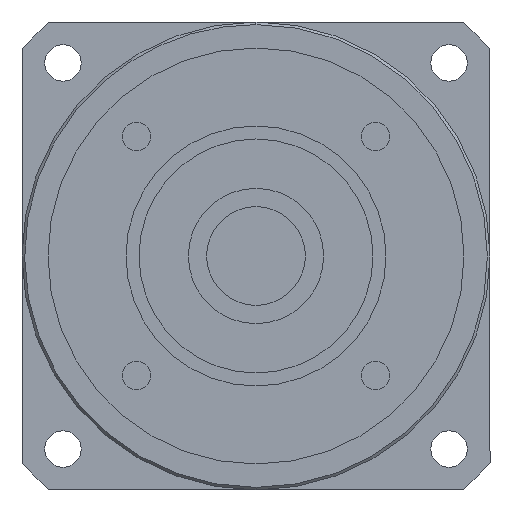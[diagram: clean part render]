
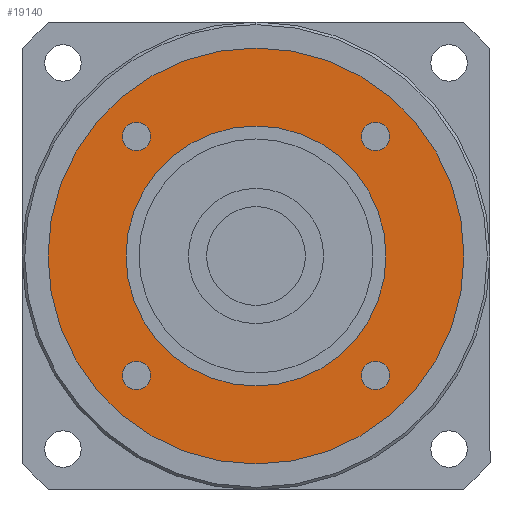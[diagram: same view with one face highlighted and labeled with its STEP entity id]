
A CAD part, left-side view. The second image highlights one B-rep face of the part: STEP entity #19140.
In plain terms, the highlighted planar face has unit normal (-1, 0, 0) as drawn and (0, 0, -1) by its records, which use the part's own axes.
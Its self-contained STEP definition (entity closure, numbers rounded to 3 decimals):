
#17810=CARTESIAN_POINT('',(40.,0.,-117.));
#17820=VERTEX_POINT('',#17810);
#17850=CARTESIAN_POINT('',(0.,0.,
-117.));
#17860=DIRECTION('',(0.,0.,1.));
#17870=DIRECTION('',(0.,-1.,0.));
#17880=AXIS2_PLACEMENT_3D('',#17850,#17860,#17870);
#17890=CIRCLE('',#17880,40.);
#17900=CARTESIAN_POINT('',(0.,-40.,-117.));
#17910=VERTEX_POINT('',#17900);
#17920=EDGE_CURVE('',#17910,#17820,#17890,.T.);
#17940=CARTESIAN_POINT('',(-40.,0.,-117.));
#17950=VERTEX_POINT('',#17940);
#17960=EDGE_CURVE('',#17950,#17910,#17890,.T.);
#18080=CARTESIAN_POINT('',(0.,0.,
-117.));
#18090=DIRECTION('',(0.,0.,1.));
#18100=DIRECTION('',(-1.,0.,0.));
#18110=AXIS2_PLACEMENT_3D('',#18080,#18090,#18100);
#18120=PLANE('',#18110);
#18130=CARTESIAN_POINT('',(22.981,-22.981,-117.));
#18140=DIRECTION('',(0.,0.,-1.));
#18150=DIRECTION('',(1.,0.,0.));
#18160=AXIS2_PLACEMENT_3D('',#18130,#18140,#18150);
#18170=CIRCLE('',#18160,2.75);
#18180=CARTESIAN_POINT('',(25.731,-22.981,-117.));
#18190=VERTEX_POINT('',#18180);
#18200=CARTESIAN_POINT('',(22.981,-25.731,-117.));
#18210=VERTEX_POINT('',#18200);
#18220=EDGE_CURVE('',#18190,#18210,#18170,.T.);
#18230=ORIENTED_EDGE('',*,*,#18220,.F.);
#18240=CARTESIAN_POINT('',(22.981,-20.231,-117.));
#18250=VERTEX_POINT('',#18240);
#18260=EDGE_CURVE('',#18210,#18250,#18170,.T.);
#18270=ORIENTED_EDGE('',*,*,#18260,.F.);
#18280=EDGE_CURVE('',#18250,#18190,#18170,.T.);
#18290=ORIENTED_EDGE('',*,*,#18280,.F.);
#18300=EDGE_LOOP('',(#18290,#18270,#18230));
#18310=FACE_BOUND('',#18300,.T.);
#18320=CARTESIAN_POINT('',(22.981,22.981,-117.));
#18330=DIRECTION('',(0.,0.,-1.));
#18340=DIRECTION('',(0.,1.,0.));
#18350=AXIS2_PLACEMENT_3D('',#18320,#18330,#18340);
#18360=CIRCLE('',#18350,2.75);
#18370=CARTESIAN_POINT('',(22.981,25.731,-117.));
#18380=VERTEX_POINT('',#18370);
#18390=CARTESIAN_POINT('',(25.731,22.981,-117.));
#18400=VERTEX_POINT('',#18390);
#18410=EDGE_CURVE('',#18380,#18400,#18360,.T.);
#18420=ORIENTED_EDGE('',*,*,#18410,.F.);
#18430=CARTESIAN_POINT('',(20.231,22.981,-117.));
#18440=VERTEX_POINT('',#18430);
#18450=EDGE_CURVE('',#18400,#18440,#18360,.T.);
#18460=ORIENTED_EDGE('',*,*,#18450,.F.);
#18470=EDGE_CURVE('',#18440,#18380,#18360,.T.);
#18480=ORIENTED_EDGE('',*,*,#18470,.F.);
#18490=EDGE_LOOP('',(#18480,#18460,#18420));
#18500=FACE_BOUND('',#18490,.T.);
#18510=CARTESIAN_POINT('',(-22.981,22.981,-117.));
#18520=DIRECTION('',(0.,0.,-1.));
#18530=DIRECTION('',(-1.,0.,0.));
#18540=AXIS2_PLACEMENT_3D('',#18510,#18520,#18530);
#18550=CIRCLE('',#18540,2.75);
#18560=CARTESIAN_POINT('',(-25.731,22.981,-117.));
#18570=VERTEX_POINT('',#18560);
#18580=CARTESIAN_POINT('',(-22.981,25.731,-117.));
#18590=VERTEX_POINT('',#18580);
#18600=EDGE_CURVE('',#18570,#18590,#18550,.T.);
#18610=ORIENTED_EDGE('',*,*,#18600,.F.);
#18620=CARTESIAN_POINT('',(-22.981,20.231,-117.));
#18630=VERTEX_POINT('',#18620);
#18640=EDGE_CURVE('',#18590,#18630,#18550,.T.);
#18650=ORIENTED_EDGE('',*,*,#18640,.F.);
#18660=EDGE_CURVE('',#18630,#18570,#18550,.T.);
#18670=ORIENTED_EDGE('',*,*,#18660,.F.);
#18680=EDGE_LOOP('',(#18670,#18650,#18610));
#18690=FACE_BOUND('',#18680,.T.);
#18700=CARTESIAN_POINT('',(-22.981,-22.981,-117.));
#18710=DIRECTION('',(0.,0.,-1.));
#18720=DIRECTION('',(0.,-1.,0.));
#18730=AXIS2_PLACEMENT_3D('',#18700,#18710,#18720);
#18740=CIRCLE('',#18730,2.75);
#18750=CARTESIAN_POINT('',(-22.981,-25.731,-117.));
#18760=VERTEX_POINT('',#18750);
#18770=CARTESIAN_POINT('',(-25.731,-22.981,-117.));
#18780=VERTEX_POINT('',#18770);
#18790=EDGE_CURVE('',#18760,#18780,#18740,.T.);
#18800=ORIENTED_EDGE('',*,*,#18790,.F.);
#18810=CARTESIAN_POINT('',(-20.231,-22.981,-117.));
#18820=VERTEX_POINT('',#18810);
#18830=EDGE_CURVE('',#18780,#18820,#18740,.T.);
#18840=ORIENTED_EDGE('',*,*,#18830,.F.);
#18850=EDGE_CURVE('',#18820,#18760,#18740,.T.);
#18860=ORIENTED_EDGE('',*,*,#18850,.F.);
#18870=EDGE_LOOP('',(#18860,#18840,#18800));
#18880=FACE_BOUND('',#18870,.T.);
#18890=ORIENTED_EDGE('',*,*,#17920,.F.);
#18900=EDGE_CURVE('',#17820,#17950,#17890,.T.);
#18910=ORIENTED_EDGE('',*,*,#18900,.F.);
#18920=ORIENTED_EDGE('',*,*,#17960,.F.);
#18930=EDGE_LOOP('',(#18920,#18910,#18890));
#18940=FACE_OUTER_BOUND('',#18930,.T.);
#18950=CARTESIAN_POINT('',(0.,0.,
-117.));
#18960=DIRECTION('',(0.,0.,1.));
#18970=DIRECTION('',(0.,-1.,0.));
#18980=AXIS2_PLACEMENT_3D('',#18950,#18960,#18970);
#18990=CIRCLE('',#18980,25.);
#19000=CARTESIAN_POINT('',(25.,0.,-117.));
#19010=VERTEX_POINT('',#19000);
#19020=CARTESIAN_POINT('',(-25.,0.,-117.));
#19030=VERTEX_POINT('',#19020);
#19040=EDGE_CURVE('',#19010,#19030,#18990,.T.);
#19050=ORIENTED_EDGE('',*,*,#19040,.T.);
#19060=CARTESIAN_POINT('',(0.,-25.,-117.));
#19070=VERTEX_POINT('',#19060);
#19080=EDGE_CURVE('',#19070,#19010,#18990,.T.);
#19090=ORIENTED_EDGE('',*,*,#19080,.T.);
#19100=EDGE_CURVE('',#19030,#19070,#18990,.T.);
#19110=ORIENTED_EDGE('',*,*,#19100,.T.);
#19120=EDGE_LOOP('',(#19110,#19090,#19050));
#19130=FACE_BOUND('',#19120,.T.);
#19140=ADVANCED_FACE('',(#18310,#18500,#18690,#18880,#18940,#19130),
#18120,.F.);
